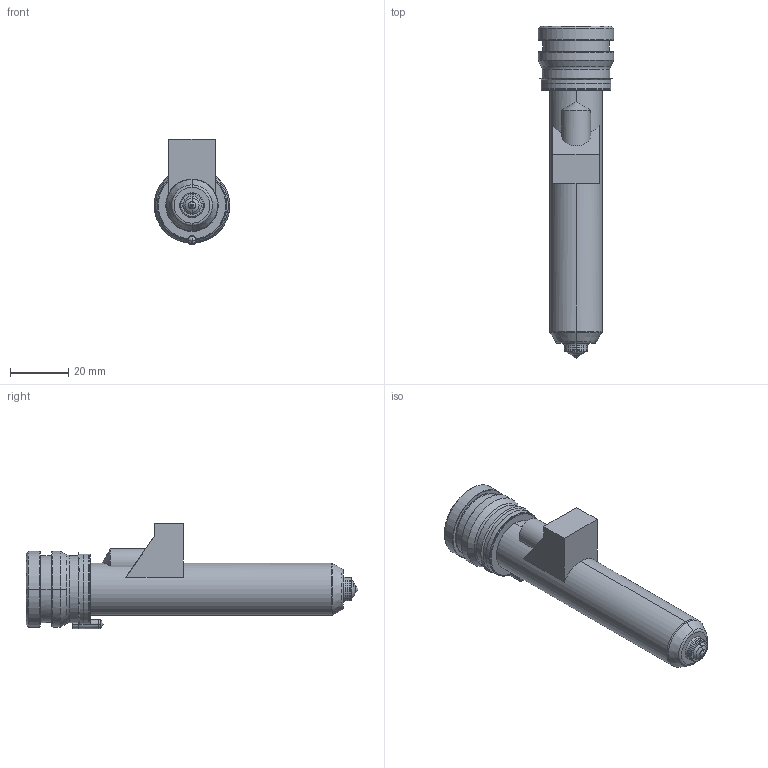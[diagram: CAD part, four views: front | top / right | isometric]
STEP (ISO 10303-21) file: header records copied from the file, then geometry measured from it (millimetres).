
FILE_DESCRIPTION((''),'2;1');
FILE_NAME('TH18096-M-1-PK-JG','2023-12-14T',('umhib'),('Thermoplay S.p.A.'),'PRO/ENGINEER BY PARAMETRIC TECHNOLOGY CORPORATION, 2017170','PRO/ENGINEER BY PARAMETRIC TECHNOLOGY CORPORATION, 2017170','');
FILE_SCHEMA(('CONFIG_CONTROL_DESIGN'));
Length unit declared in the file: millimetre
Products named in the file (1): TH18096-M-1-PK-JG
Bounding box: 26 x 114 x 36.1 mm (x, y, z)
Volume: 24259.2 mm3; surface area: 18606 mm2
Topology: 1 solids, 2 shells, 391 faces, 999 edges, 613 vertices
Faces by surface type: cylinder 149, plane 87, cone 62, torus 58, bspline 22, sphere 11, extrusion 2
Entity records: 16794 total; most frequent: CARTESIAN_POINT 5166, DIRECTION 2000, ORIENTED_EDGE 1972, EDGE_CURVE 988, AXIS2_PLACEMENT_3D 806, VERTEX_POINT 613, CIRCLE 438, EDGE_LOOP 414
